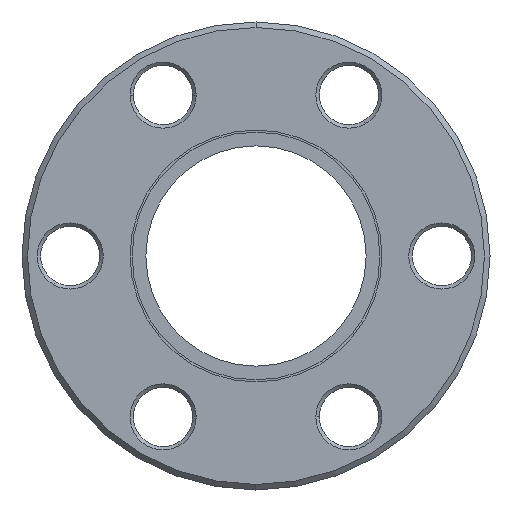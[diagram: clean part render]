
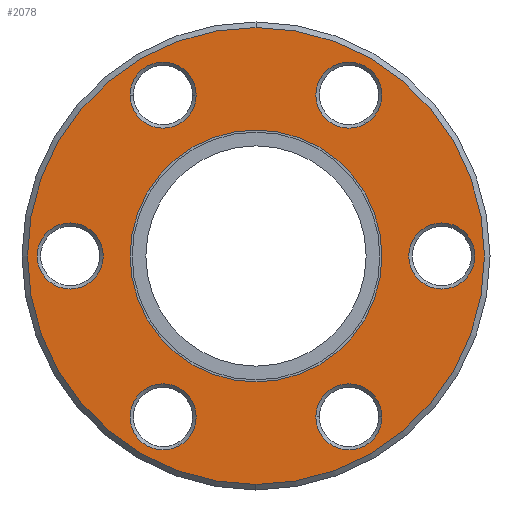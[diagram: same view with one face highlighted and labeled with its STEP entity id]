
A CAD part, left-side view. The second image highlights one B-rep face of the part: STEP entity #2078.
In plain terms, the highlighted planar face has unit normal (-1, 0, 0).
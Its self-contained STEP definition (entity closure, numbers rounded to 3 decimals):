
#306=CARTESIAN_POINT('',(30.5,0.,-9.15));
#307=VERTEX_POINT('',#306);
#316=CARTESIAN_POINT('',(30.5,0.,9.15));
#317=VERTEX_POINT('',#316);
#318=CARTESIAN_POINT('',(30.5,0.,0.));
#319=DIRECTION('',(1.0,0.0,0.0));
#320=DIRECTION('',(0.0,0.0,-1.0));
#321=AXIS2_PLACEMENT_3D('',#318,#319,#320);
#322=CIRCLE('',#321,9.15);
#323=EDGE_CURVE('',#317,#307,#322,.T.);
#554=CARTESIAN_POINT('',(30.5,0.,16.6));
#555=VERTEX_POINT('',#554);
#564=CARTESIAN_POINT('',(30.5,0.,-16.6));
#565=VERTEX_POINT('',#564);
#566=CARTESIAN_POINT('',(30.5,0.,0.));
#567=DIRECTION('',(1.0,0.0,0.0));
#568=DIRECTION('',(0.0,0.0,1.0));
#569=AXIS2_PLACEMENT_3D('',#566,#567,#568);
#570=CIRCLE('',#569,16.6);
#571=EDGE_CURVE('',#555,#565,#570,.T.);
#773=CARTESIAN_POINT('',(30.5,-9.15,-11.691));
#774=VERTEX_POINT('',#773);
#788=CARTESIAN_POINT('',(30.5,-4.35,-11.691));
#789=VERTEX_POINT('',#788);
#796=CARTESIAN_POINT('',(30.5,-6.75,-11.691));
#797=DIRECTION('',(-1.0,0.0,0.0));
#798=DIRECTION('',(0.0,-1.0,0.0));
#799=AXIS2_PLACEMENT_3D('',#796,#797,#798);
#800=CIRCLE('',#799,2.4);
#801=EDGE_CURVE('',#789,#774,#800,.T.);
#912=CARTESIAN_POINT('',(30.5,5.55,-13.77));
#913=VERTEX_POINT('',#912);
#927=CARTESIAN_POINT('',(30.5,7.95,-9.613));
#928=VERTEX_POINT('',#927);
#935=CARTESIAN_POINT('',(30.5,6.75,-11.691));
#936=DIRECTION('',(-1.0,0.,0.));
#937=DIRECTION('',(0.,-0.5,-0.866));
#938=AXIS2_PLACEMENT_3D('',#935,#936,#937);
#939=CIRCLE('',#938,2.4);
#940=EDGE_CURVE('',#928,#913,#939,.T.);
#1051=CARTESIAN_POINT('',(30.5,14.7,-2.078));
#1052=VERTEX_POINT('',#1051);
#1066=CARTESIAN_POINT('',(30.5,12.3,2.078));
#1067=VERTEX_POINT('',#1066);
#1074=CARTESIAN_POINT('',(30.5,13.5,0.));
#1075=DIRECTION('',(-1.,0.,0.));
#1076=DIRECTION('',(0.,0.5,-0.866));
#1077=AXIS2_PLACEMENT_3D('',#1074,#1075,#1076);
#1078=CIRCLE('',#1077,2.4);
#1079=EDGE_CURVE('',#1067,#1052,#1078,.T.);
#1190=CARTESIAN_POINT('',(30.5,9.15,11.691));
#1191=VERTEX_POINT('',#1190);
#1205=CARTESIAN_POINT('',(30.5,4.35,11.691));
#1206=VERTEX_POINT('',#1205);
#1213=CARTESIAN_POINT('',(30.5,6.75,11.691));
#1214=DIRECTION('',(-1.0,0.0,0.0));
#1215=DIRECTION('',(0.0,1.0,0.0));
#1216=AXIS2_PLACEMENT_3D('',#1213,#1214,#1215);
#1217=CIRCLE('',#1216,2.4);
#1218=EDGE_CURVE('',#1206,#1191,#1217,.T.);
#1329=CARTESIAN_POINT('',(30.5,-5.55,13.77));
#1330=VERTEX_POINT('',#1329);
#1344=CARTESIAN_POINT('',(30.5,-7.95,9.613));
#1345=VERTEX_POINT('',#1344);
#1352=CARTESIAN_POINT('',(30.5,-6.75,11.691));
#1353=DIRECTION('',(-1.,0.,0.));
#1354=DIRECTION('',(0.,0.5,0.866));
#1355=AXIS2_PLACEMENT_3D('',#1352,#1353,#1354);
#1356=CIRCLE('',#1355,2.4);
#1357=EDGE_CURVE('',#1345,#1330,#1356,.T.);
#1468=CARTESIAN_POINT('',(30.5,-14.7,2.078));
#1469=VERTEX_POINT('',#1468);
#1483=CARTESIAN_POINT('',(30.5,-12.3,-2.078));
#1484=VERTEX_POINT('',#1483);
#1491=CARTESIAN_POINT('',(30.5,-13.5,0.));
#1492=DIRECTION('',(-1.0,0.,0.));
#1493=DIRECTION('',(0.,-0.5,0.866));
#1494=AXIS2_PLACEMENT_3D('',#1491,#1492,#1493);
#1495=CIRCLE('',#1494,2.4);
#1496=EDGE_CURVE('',#1484,#1469,#1495,.T.);
#1954=CARTESIAN_POINT('',(30.5,-13.5,0.));
#1955=DIRECTION('',(-1.0,0.,0.));
#1956=DIRECTION('',(0.,-0.5,0.866));
#1957=AXIS2_PLACEMENT_3D('',#1954,#1955,#1956);
#1958=CIRCLE('',#1957,2.4);
#1959=EDGE_CURVE('',#1469,#1484,#1958,.T.);
#1999=CARTESIAN_POINT('',(30.5,0.,-13.075));
#2000=DIRECTION('',(-1.0,0.0,0.0));
#2001=DIRECTION('',(0.0,1.0,0.0));
#2002=AXIS2_PLACEMENT_3D('',#1999,#2000,#2001);
#2003=PLANE('',#2002);
#2004=CARTESIAN_POINT('',(30.5,0.,0.));
#2005=DIRECTION('',(1.0,0.0,0.0));
#2006=DIRECTION('',(0.0,0.0,1.0));
#2007=AXIS2_PLACEMENT_3D('',#2004,#2005,#2006);
#2008=CIRCLE('',#2007,16.6);
#2009=EDGE_CURVE('',#565,#555,#2008,.T.);
#2010=ORIENTED_EDGE('',*,*,#2009,.F.);
#2011=ORIENTED_EDGE('',*,*,#571,.F.);
#2012=EDGE_LOOP('',(#2010,#2011));
#2013=FACE_OUTER_BOUND('',#2012,.T.);
#2014=ORIENTED_EDGE('',*,*,#1357,.F.);
#2015=CARTESIAN_POINT('',(30.5,-6.75,11.691));
#2016=DIRECTION('',(-1.,0.,0.));
#2017=DIRECTION('',(0.,0.5,0.866));
#2018=AXIS2_PLACEMENT_3D('',#2015,#2016,#2017);
#2019=CIRCLE('',#2018,2.4);
#2020=EDGE_CURVE('',#1330,#1345,#2019,.T.);
#2021=ORIENTED_EDGE('',*,*,#2020,.F.);
#2022=EDGE_LOOP('',(#2014,#2021));
#2023=FACE_BOUND('',#2022,.T.);
#2024=ORIENTED_EDGE('',*,*,#1079,.F.);
#2025=CARTESIAN_POINT('',(30.5,13.5,0.));
#2026=DIRECTION('',(-1.,0.,0.));
#2027=DIRECTION('',(0.,0.5,-0.866));
#2028=AXIS2_PLACEMENT_3D('',#2025,#2026,#2027);
#2029=CIRCLE('',#2028,2.4);
#2030=EDGE_CURVE('',#1052,#1067,#2029,.T.);
#2031=ORIENTED_EDGE('',*,*,#2030,.F.);
#2032=EDGE_LOOP('',(#2024,#2031));
#2033=FACE_BOUND('',#2032,.T.);
#2034=ORIENTED_EDGE('',*,*,#801,.F.);
#2035=CARTESIAN_POINT('',(30.5,-6.75,-11.691));
#2036=DIRECTION('',(-1.0,0.0,0.0));
#2037=DIRECTION('',(0.0,-1.0,0.0));
#2038=AXIS2_PLACEMENT_3D('',#2035,#2036,#2037);
#2039=CIRCLE('',#2038,2.4);
#2040=EDGE_CURVE('',#774,#789,#2039,.T.);
#2041=ORIENTED_EDGE('',*,*,#2040,.F.);
#2042=EDGE_LOOP('',(#2034,#2041));
#2043=FACE_BOUND('',#2042,.T.);
#2044=CARTESIAN_POINT('',(30.5,0.,0.));
#2045=DIRECTION('',(1.0,0.0,0.0));
#2046=DIRECTION('',(0.0,0.0,-1.0));
#2047=AXIS2_PLACEMENT_3D('',#2044,#2045,#2046);
#2048=CIRCLE('',#2047,9.15);
#2049=EDGE_CURVE('',#307,#317,#2048,.T.);
#2050=ORIENTED_EDGE('',*,*,#2049,.T.);
#2051=ORIENTED_EDGE('',*,*,#323,.T.);
#2052=EDGE_LOOP('',(#2050,#2051));
#2053=FACE_BOUND('',#2052,.T.);
#2054=ORIENTED_EDGE('',*,*,#940,.F.);
#2055=CARTESIAN_POINT('',(30.5,6.75,-11.691));
#2056=DIRECTION('',(-1.0,0.,0.));
#2057=DIRECTION('',(0.,-0.5,-0.866));
#2058=AXIS2_PLACEMENT_3D('',#2055,#2056,#2057);
#2059=CIRCLE('',#2058,2.4);
#2060=EDGE_CURVE('',#913,#928,#2059,.T.);
#2061=ORIENTED_EDGE('',*,*,#2060,.F.);
#2062=EDGE_LOOP('',(#2054,#2061));
#2063=FACE_BOUND('',#2062,.T.);
#2064=ORIENTED_EDGE('',*,*,#1218,.F.);
#2065=CARTESIAN_POINT('',(30.5,6.75,11.691));
#2066=DIRECTION('',(-1.0,0.0,0.0));
#2067=DIRECTION('',(0.0,1.0,0.0));
#2068=AXIS2_PLACEMENT_3D('',#2065,#2066,#2067);
#2069=CIRCLE('',#2068,2.4);
#2070=EDGE_CURVE('',#1191,#1206,#2069,.T.);
#2071=ORIENTED_EDGE('',*,*,#2070,.F.);
#2072=EDGE_LOOP('',(#2064,#2071));
#2073=FACE_BOUND('',#2072,.T.);
#2074=ORIENTED_EDGE('',*,*,#1496,.F.);
#2075=ORIENTED_EDGE('',*,*,#1959,.F.);
#2076=EDGE_LOOP('',(#2074,#2075));
#2077=FACE_BOUND('',#2076,.T.);
#2078=ADVANCED_FACE('',(#2013,#2023,#2033,#2043,#2053,#2063,#2073,#2077),#2003,.T.);
